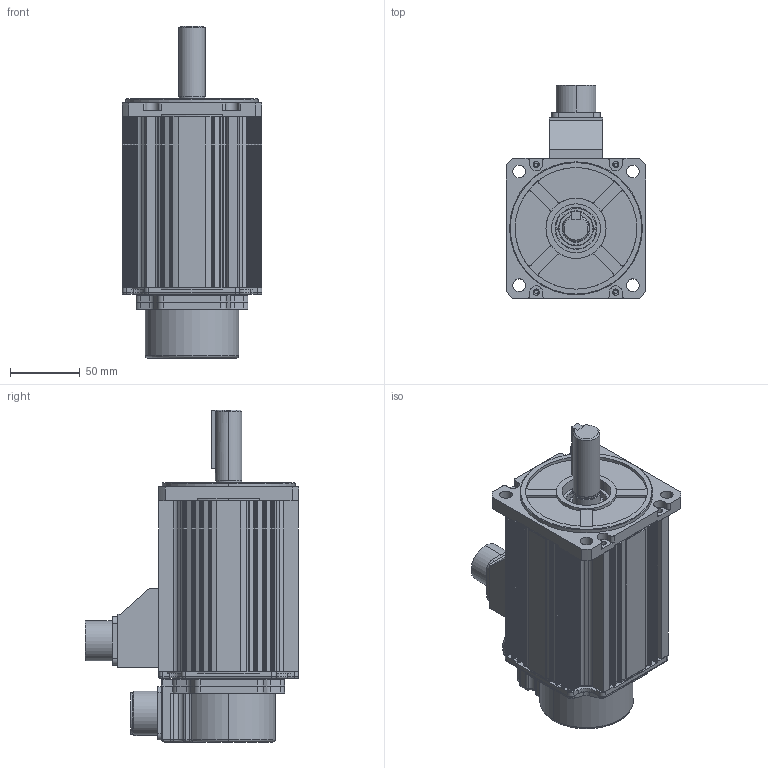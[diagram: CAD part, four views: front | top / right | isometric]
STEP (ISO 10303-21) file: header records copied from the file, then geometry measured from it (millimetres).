
FILE_DESCRIPTION (( 'STEP AP203' ), '1' );
FILE_NAME ('KANS-10DF1B2.STEP', '2023-05-25T07:12:59', ( '' ), ( '' ), 'SwSTEP 2.0', 'SolidWorks 2020', '' );
FILE_SCHEMA (( 'CONFIG_CONTROL_DESIGN' ));
Length unit declared in the file: millimetre
Products named in the file (12): 10060022(ENCODER COVER,__100.__120,MS20-29P,2of2)_____.STEP; 10060021(FLANGE).STEP; SHAFT,__19x55,Key_____.STEP; 10000429(GASKET __80).STEP; 10050579(CONNECTOR BOX ASS''''Y,20SHELL).STEP; KANS-10DF1B2; FRAME(__100,122mm).STEP; CONNECTOR(20-18P).STEP; 10060019(BRACKET).STEP; 3102A 20-29P.STEP; 10060024(Encoder Cover Adapter,__100,120)_____.STEP; 6X6X42.STEP
Assembly tree (11 placements, depth 2):
  KANS-10DF1B2
    FRAME(__100,122mm).STEP
    10060019(BRACKET).STEP
    10060021(FLANGE).STEP
    10060022(ENCODER COVER,__100.__120,MS20-29P,2of2)_____.STEP
    10060024(Encoder Cover Adapter,__100,120)_____.STEP
    10050579(CONNECTOR BOX ASS''''Y,20SHELL).STEP
    3102A 20-29P.STEP
    CONNECTOR(20-18P).STEP
    SHAFT,__19x55,Key_____.STEP
    6X6X42.STEP
    10000429(GASKET __80).STEP
Bounding box: 100 x 152.35 x 237.4 mm (x, y, z)
Volume: 423165.7 mm3; surface area: 255236.2 mm2
Topology: 12 solids, 12 shells, 1698 faces, 4726 edges, 3093 vertices
Faces by surface type: plane 832, cylinder 737, cone 58, bspline 37, torus 32, sphere 2
Entity records: 58887 total; most frequent: CARTESIAN_POINT 12967, DIRECTION 9538, ORIENTED_EDGE 9368, EDGE_CURVE 4684, AXIS2_PLACEMENT_3D 3316, VERTEX_POINT 3093, VECTOR 2906, LINE 2906
